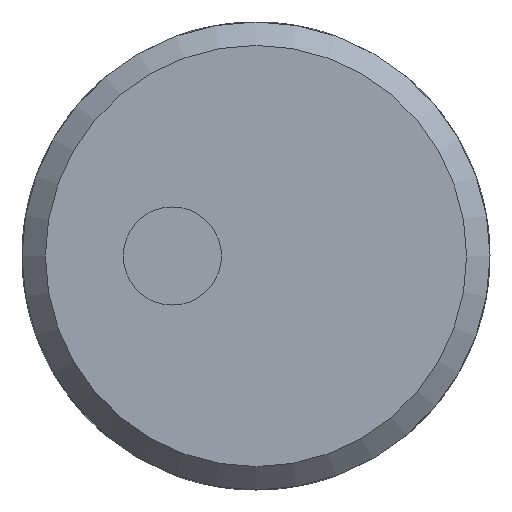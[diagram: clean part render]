
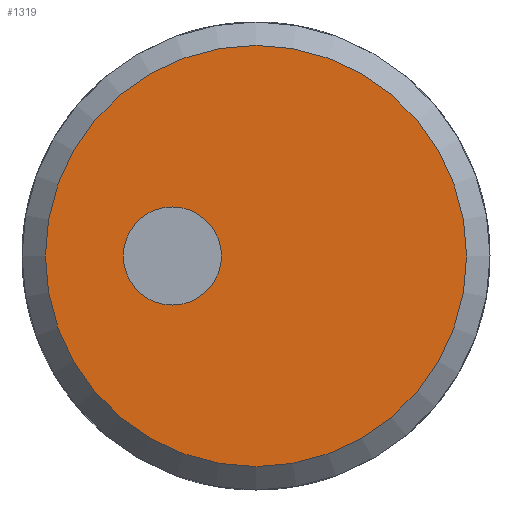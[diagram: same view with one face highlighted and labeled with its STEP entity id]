
A CAD part, left-side view. The second image highlights one B-rep face of the part: STEP entity #1319.
In plain terms, the highlighted planar face has unit normal (-1, 0, 0).
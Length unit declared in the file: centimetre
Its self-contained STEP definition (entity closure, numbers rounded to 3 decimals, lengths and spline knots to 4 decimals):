
#381=PLANE('',#1423);
#402=CIRCLE('',#1360,0.1048);
#425=CIRCLE('',#1417,0.45);
#458=VERTEX_POINT('',#2027);
#525=VERTEX_POINT('',#2771);
#617=EDGE_CURVE('',#458,#458,#402,.T.);
#700=EDGE_CURVE('',#525,#525,#425,.T.);
#955=ORIENTED_EDGE('',*,*,#617,.T.);
#956=ORIENTED_EDGE('',*,*,#700,.F.);
#1152=EDGE_LOOP('',(#955));
#1153=EDGE_LOOP('',(#956));
#1249=FACE_BOUND('',#1152,.T.);
#1250=FACE_BOUND('',#1153,.T.);
#1319=ADVANCED_FACE('',(#1249,#1250),#381,.T.);
#1360=AXIS2_PLACEMENT_3D('',#2026,#1490,#1491);
#1417=AXIS2_PLACEMENT_3D('',#2770,#1634,#1635);
#1423=AXIS2_PLACEMENT_3D('',#2784,#1649,$);
#1490=DIRECTION('',(1.,0.,0.));
#1491=DIRECTION('',(0.,0.,0.105));
#1634=DIRECTION('',(1.,0.,0.));
#1635=DIRECTION('',(0.,0.,0.45));
#1649=DIRECTION('',(-1.,0.,0.));
#2026=CARTESIAN_POINT('',(0.,0.1786,0.));
#2027=CARTESIAN_POINT('',(0.,0.1786,0.1048));
#2770=CARTESIAN_POINT('',(0.,0.,0.));
#2771=CARTESIAN_POINT('',(0.,0.,-0.45));
#2784=CARTESIAN_POINT('',(0.,0.,-0.25));
